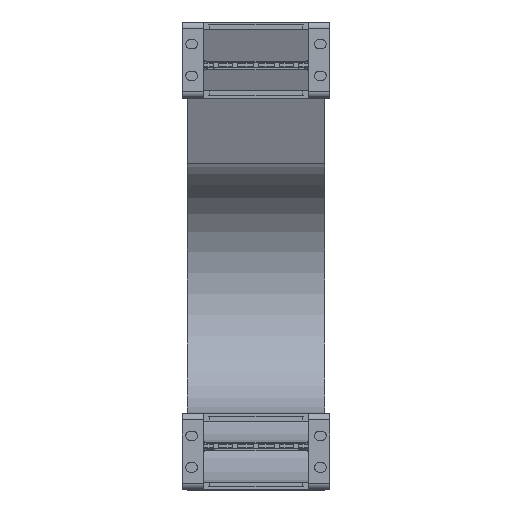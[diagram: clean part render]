
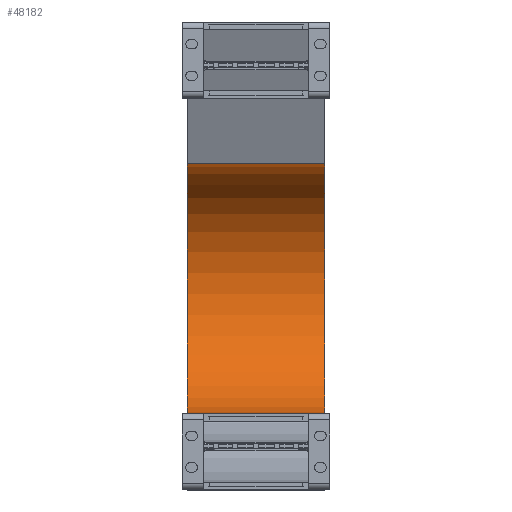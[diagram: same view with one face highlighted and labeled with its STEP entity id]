
A CAD part, top view. The second image highlights one B-rep face of the part: STEP entity #48182.
In plain terms, the highlighted cylindrical face has radius 59.5 mm (diameter 119 mm), a partial arc.
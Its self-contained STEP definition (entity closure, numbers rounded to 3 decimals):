
#47334=DIRECTION('',(-1.,0.,0.));
#47335=VECTOR('',#47334,65.);
#47336=CARTESIAN_POINT('',(32.5,36.,-400.));
#47337=LINE('',#47336,#47335);
#47348=DIRECTION('',(-1.,0.,0.));
#47349=VECTOR('',#47348,65.);
#47350=CARTESIAN_POINT('',(32.5,154.774,-405.18));
#47351=LINE('',#47350,#47349);
#47355=CARTESIAN_POINT('',(32.5,95.5,-400.));
#47356=DIRECTION('',(-1.,0.,0.));
#47357=DIRECTION('',(0.,0.996,-0.087));
#47358=AXIS2_PLACEMENT_3D('',#47355,#47356,#47357);
#47434=CARTESIAN_POINT('',(-32.5,95.5,-400.));
#47435=DIRECTION('',(-1.,0.,0.));
#47436=DIRECTION('',(0.,0.996,-0.087));
#47437=AXIS2_PLACEMENT_3D('',#47434,#47435,#47436);
#47556=CARTESIAN_POINT('',(32.5,154.774,-405.18));
#47557=CARTESIAN_POINT('',(-32.5,154.774,-405.18));
#47558=VERTEX_POINT('',#47556);
#47559=VERTEX_POINT('',#47557);
#47580=CARTESIAN_POINT('',(32.5,36.,-400.));
#47581=CARTESIAN_POINT('',(-32.5,36.,-400.));
#47582=VERTEX_POINT('',#47580);
#47583=VERTEX_POINT('',#47581);
#48168=CARTESIAN_POINT('',(1.,95.5,-400.));
#48169=DIRECTION('',(-1.,0.,0.));
#48170=DIRECTION('',(0.,-0.996,0.087));
#48171=AXIS2_PLACEMENT_3D('',#48168,#48169,#48170);
#48172=CYLINDRICAL_SURFACE('',#48171,59.5);
#48174=ORIENTED_EDGE('',*,*,#48173,.F.);
#48176=ORIENTED_EDGE('',*,*,#48175,.T.);
#48177=ORIENTED_EDGE('',*,*,#48151,.T.);
#48179=ORIENTED_EDGE('',*,*,#48178,.F.);
#48180=EDGE_LOOP('',(#48174,#48176,#48177,#48179));
#48181=FACE_OUTER_BOUND('',#48180,.F.);
#47359=CIRCLE('',#47358,59.5);
#47438=CIRCLE('',#47437,59.5);
#48151=EDGE_CURVE('',#47582,#47583,#47337,.T.);
#48173=EDGE_CURVE('',#47558,#47559,#47351,.T.);
#48175=EDGE_CURVE('',#47558,#47582,#47359,.T.);
#48178=EDGE_CURVE('',#47559,#47583,#47438,.T.);
#48182=ADVANCED_FACE('',(#48181),#48172,.F.);
